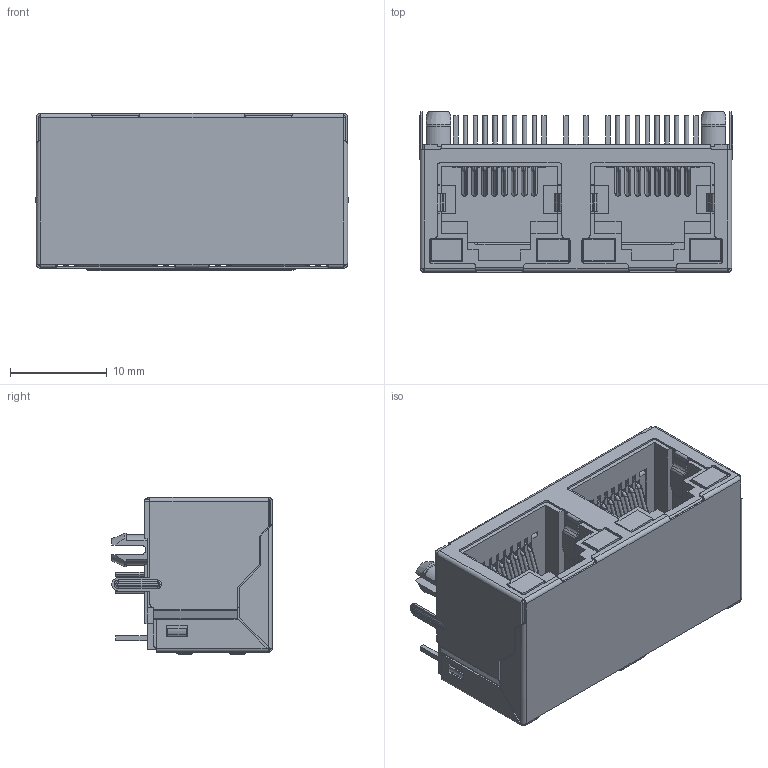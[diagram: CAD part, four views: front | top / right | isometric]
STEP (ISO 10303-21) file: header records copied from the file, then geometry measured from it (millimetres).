
FILE_DESCRIPTION((''),'2;1');
FILE_NAME('DGKYD561288AB1A3DY1027','2023-04-17T14:49:58',('Administrator'),(''),'CREO PARAMETRIC BY PTC INC, 2019010','CREO PARAMETRIC BY PTC INC, 2019010','');
FILE_SCHEMA(('CONFIG_CONTROL_DESIGN'));
Length unit declared in the file: millimetre
Products named in the file (1): DGKYD561288AB1A3DY1027
Bounding box: 32.4 x 16.61 x 16.25 mm (x, y, z)
Volume: 3185.9 mm3; surface area: 9239.4 mm2
Topology: 9 solids, 10 shells, 1760 faces, 5016 edges, 3202 vertices
Faces by surface type: plane 1150, cylinder 474, torus 104, bspline 26, cone 4, sphere 2
Entity records: 58781 total; most frequent: CARTESIAN_POINT 12260, ORIENTED_EDGE 10020, DIRECTION 9533, EDGE_CURVE 5014, VECTOR 3519, LINE 3519, VERTEX_POINT 3202, AXIS2_PLACEMENT_3D 3007
